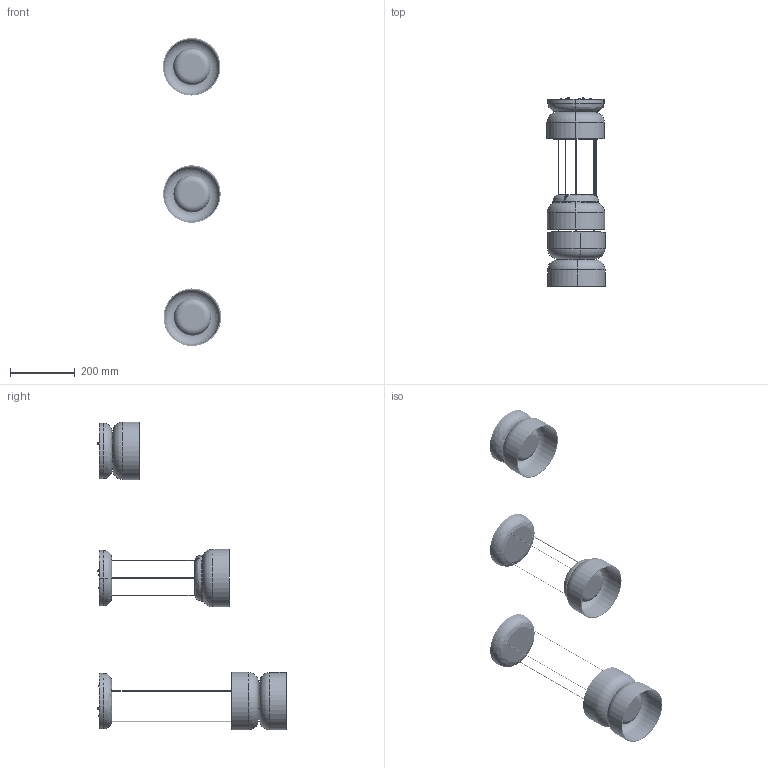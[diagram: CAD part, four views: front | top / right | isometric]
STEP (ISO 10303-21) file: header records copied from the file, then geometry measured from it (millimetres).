
FILE_DESCRIPTION (( 'STEP AP214' ), '1' );
FILE_NAME ('Pablo Designs - Totem Pendant and Flush - E - Share CAD - 020425.STEP', '2025-02-04T19:55:45', ( '' ), ( '' ), 'SwSTEP 2.0', 'SolidWorks 2019', '' );
FILE_SCHEMA (( 'AUTOMOTIVE_DESIGN' ));
Length unit declared in the file: inch
Products named in the file (5): Totem Flush, Share CAD PART; Totem Down, LED MODULE and CANOPY; Totem - E Shade - D7.0 x H3.25 x R1.25; Pablo Designs - Totem Pendant and Flush - E - Share CAD - 020425; Totem UpDown, LED MODULE and CANOPY
Assembly tree (7 placements, depth 2):
  Pablo Designs - Totem Pendant and Flush - E - Share CAD - 020425
    Totem UpDown, LED MODULE and CANOPY
    Totem - E Shade - D7.0 x H3.25 x R1.25  x4
    Totem Down, LED MODULE and CANOPY
    Totem Flush, Share CAD PART
Bounding box: 179.74 x 582.09 x 951.7 mm (x, y, z)
Volume: 725801.5 mm3; surface area: 1369313.9 mm2
Topology: 4 solids, 130 shells, 4245 faces, 11108 edges, 7175 vertices
Faces by surface type: cylinder 1705, plane 1612, cone 477, bspline 381, torus 60, sphere 10
Entity records: 238435 total; most frequent: CARTESIAN_POINT 82832, ORIENTED_EDGE 21800, DIRECTION 19531, EDGE_CURVE 10906, AXIS2_PLACEMENT_3D 7255, VERTEX_POINT 7123, VECTOR 5021, LINE 5021
